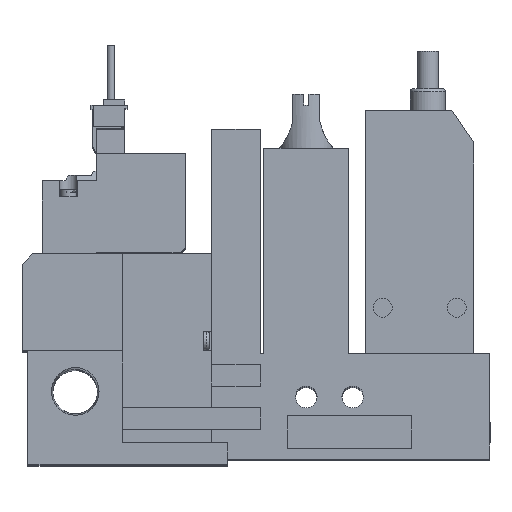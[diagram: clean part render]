
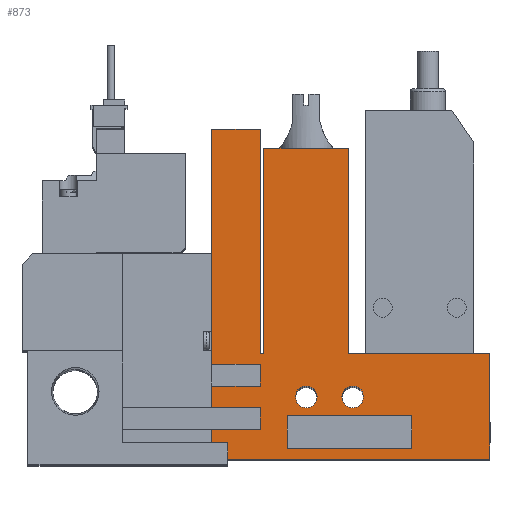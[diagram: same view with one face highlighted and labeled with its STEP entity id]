
A CAD part, top view. The second image highlights one B-rep face of the part: STEP entity #873.
In plain terms, the highlighted planar face has unit normal (0, 0, 1).
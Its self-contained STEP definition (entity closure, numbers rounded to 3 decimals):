
#873=ADVANCED_FACE('',(#1705,#1706,#1707,#1708),#1709,.T.);
#1705=FACE_OUTER_BOUND('',#2873,.T.);
#1706=FACE_BOUND('',#2874,.T.);
#1707=FACE_BOUND('',#2875,.T.);
#1708=FACE_BOUND('',#2876,.T.);
#1709=PLANE('',#2877);
#2873=EDGE_LOOP('',(#5829,#5830,#5831,#5832,#5833,#5834,#5835,#5836,#5837,#5838,#5839,#5840,#5841,#5842,#5843,#5844,#5845,#5846));
#2874=EDGE_LOOP('',(#5847,#5848,#5849,#5850));
#2875=EDGE_LOOP('',(#5851));
#2876=EDGE_LOOP('',(#5852));
#2877=AXIS2_PLACEMENT_3D('',#5853,#5854,#5855);
#5829=ORIENTED_EDGE('',*,*,#7982,.T.);
#5830=ORIENTED_EDGE('',*,*,#7987,.T.);
#5831=ORIENTED_EDGE('',*,*,#7956,.T.);
#5832=ORIENTED_EDGE('',*,*,#7988,.T.);
#5833=ORIENTED_EDGE('',*,*,#7989,.T.);
#5834=ORIENTED_EDGE('',*,*,#7990,.T.);
#5835=ORIENTED_EDGE('',*,*,#7991,.T.);
#5836=ORIENTED_EDGE('',*,*,#7958,.T.);
#5837=ORIENTED_EDGE('',*,*,#7992,.T.);
#5838=ORIENTED_EDGE('',*,*,#7983,.T.);
#5839=ORIENTED_EDGE('',*,*,#7879,.T.);
#5840=ORIENTED_EDGE('',*,*,#7993,.T.);
#5841=ORIENTED_EDGE('',*,*,#7928,.T.);
#5842=ORIENTED_EDGE('',*,*,#7944,.T.);
#5843=ORIENTED_EDGE('',*,*,#7942,.T.);
#5844=ORIENTED_EDGE('',*,*,#7855,.T.);
#5845=ORIENTED_EDGE('',*,*,#7976,.T.);
#5846=ORIENTED_EDGE('',*,*,#7919,.T.);
#5847=ORIENTED_EDGE('',*,*,#7966,.T.);
#5848=ORIENTED_EDGE('',*,*,#7849,.T.);
#5849=ORIENTED_EDGE('',*,*,#7852,.T.);
#5850=ORIENTED_EDGE('',*,*,#7994,.T.);
#5851=ORIENTED_EDGE('',*,*,#7867,.T.);
#5852=ORIENTED_EDGE('',*,*,#7995,.T.);
#5853=CARTESIAN_POINT('',(0.0,0.0,10.0));
#5854=DIRECTION('',(0.0,0.0,1.0));
#5855=DIRECTION('',(1.0,0.0,0.0));
#7849=EDGE_CURVE('',#9465,#9470,#9472,.T.);
#7852=EDGE_CURVE('',#9470,#9475,#9477,.T.);
#7855=EDGE_CURVE('',#9483,#9481,#9484,.T.);
#7867=EDGE_CURVE('',#9506,#9506,#9507,.T.);
#7879=EDGE_CURVE('',#9528,#9526,#9529,.T.);
#7919=EDGE_CURVE('',#9599,#9597,#9600,.T.);
#7928=EDGE_CURVE('',#9616,#9614,#9617,.T.);
#7942=EDGE_CURVE('',#9637,#9483,#9638,.T.);
#7944=EDGE_CURVE('',#9614,#9637,#9640,.T.);
#7956=EDGE_CURVE('',#9654,#9659,#9661,.T.);
#7958=EDGE_CURVE('',#9664,#9662,#9665,.T.);
#7966=EDGE_CURVE('',#9672,#9465,#9676,.T.);
#7976=EDGE_CURVE('',#9481,#9599,#9692,.T.);
#7982=EDGE_CURVE('',#9597,#9699,#9701,.T.);
#7983=EDGE_CURVE('',#9702,#9528,#9703,.T.);
#7987=EDGE_CURVE('',#9699,#9654,#9708,.T.);
#7988=EDGE_CURVE('',#9659,#9709,#9710,.T.);
#7989=EDGE_CURVE('',#9709,#9711,#9712,.T.);
#7990=EDGE_CURVE('',#9711,#9713,#9714,.T.);
#7991=EDGE_CURVE('',#9713,#9664,#9715,.T.);
#7992=EDGE_CURVE('',#9662,#9702,#9716,.T.);
#7993=EDGE_CURVE('',#9526,#9616,#9717,.T.);
#7994=EDGE_CURVE('',#9475,#9672,#9718,.T.);
#7995=EDGE_CURVE('',#9719,#9719,#9720,.T.);
#9465=VERTEX_POINT('',#12086);
#9470=VERTEX_POINT('',#12093);
#9472=LINE('',#12096,#12097);
#9475=VERTEX_POINT('',#12101);
#9477=LINE('',#12104,#12105);
#9481=VERTEX_POINT('',#12110);
#9483=VERTEX_POINT('',#12113);
#9484=LINE('',#12114,#12115);
#9506=VERTEX_POINT('',#12147);
#9507=CIRCLE('',#12148,2.0);
#9526=VERTEX_POINT('',#12175);
#9528=VERTEX_POINT('',#12178);
#9529=LINE('',#12179,#12180);
#9597=VERTEX_POINT('',#12283);
#9599=VERTEX_POINT('',#12286);
#9600=LINE('',#12287,#12288);
#9614=VERTEX_POINT('',#12306);
#9616=VERTEX_POINT('',#12309);
#9617=LINE('',#12310,#12311);
#9637=VERTEX_POINT('',#12343);
#9638=LINE('',#12344,#12345);
#9640=LINE('',#12348,#12349);
#9654=VERTEX_POINT('',#12371);
#9659=VERTEX_POINT('',#12378);
#9661=LINE('',#12381,#12382);
#9662=VERTEX_POINT('',#12383);
#9664=VERTEX_POINT('',#12386);
#9665=LINE('',#12387,#12388);
#9672=VERTEX_POINT('',#12399);
#9676=LINE('',#12405,#12406);
#9692=LINE('',#12430,#12431);
#9699=VERTEX_POINT('',#12442);
#9701=LINE('',#12445,#12446);
#9702=VERTEX_POINT('',#12447);
#9703=LINE('',#12448,#12449);
#9708=LINE('',#12457,#12458);
#9709=VERTEX_POINT('',#12459);
#9710=LINE('',#12460,#12461);
#9711=VERTEX_POINT('',#12462);
#9712=LINE('',#12463,#12464);
#9713=VERTEX_POINT('',#12465);
#9714=LINE('',#12466,#12467);
#9715=LINE('',#12468,#12469);
#9716=LINE('',#12470,#12471);
#9717=LINE('',#12472,#12473);
#9718=LINE('',#12474,#12475);
#9719=VERTEX_POINT('',#12476);
#9720=CIRCLE('',#12477,2.0);
#12086=CARTESIAN_POINT('',(49.1,8.0,10.0));
#12093=CARTESIAN_POINT('',(72.1,8.0,10.0));
#12096=CARTESIAN_POINT('',(0.0,8.0,10.0));
#12097=VECTOR('',#14373,1.0);
#12101=CARTESIAN_POINT('',(72.1,2.0,10.0));
#12104=CARTESIAN_POINT('',(72.1,0.0,10.0));
#12105=VECTOR('',#14376,1.0);
#12110=CARTESIAN_POINT('',(44.1,19.5,10.0));
#12113=CARTESIAN_POINT('',(44.75,19.5,10.0));
#12114=CARTESIAN_POINT('',(44.75,19.5,10.0));
#12115=VECTOR('',#14379,1.0);
#12147=CARTESIAN_POINT('',(54.6,11.5,10.0));
#12148=AXIS2_PLACEMENT_3D('',#14393,#14394,#14395);
#12175=CARTESIAN_POINT('',(86.6,19.5,10.0));
#12178=CARTESIAN_POINT('',(86.6,0.0,10.0));
#12179=CARTESIAN_POINT('',(86.6,0.0,10.0));
#12180=VECTOR('',#14411,1.0);
#12283=CARTESIAN_POINT('',(35.1,61.0,10.0));
#12286=CARTESIAN_POINT('',(44.1,61.0,10.0));
#12287=CARTESIAN_POINT('',(44.1,61.0,10.0));
#12288=VECTOR('',#14457,1.0);
#12306=CARTESIAN_POINT('',(60.45,57.5,10.0));
#12309=CARTESIAN_POINT('',(60.45,19.5,10.0));
#12310=CARTESIAN_POINT('',(60.45,19.5,10.0));
#12311=VECTOR('',#14472,1.0);
#12343=CARTESIAN_POINT('',(44.75,57.5,10.0));
#12344=CARTESIAN_POINT('',(44.75,57.5,10.0));
#12345=VECTOR('',#14488,1.0);
#12348=CARTESIAN_POINT('',(60.45,57.5,10.0));
#12349=VECTOR('',#14490,1.0);
#12371=CARTESIAN_POINT('',(44.1,17.5,10.0));
#12378=CARTESIAN_POINT('',(44.1,13.5,10.0));
#12381=CARTESIAN_POINT('',(44.1,0.0,10.0));
#12382=VECTOR('',#14502,1.0);
#12383=CARTESIAN_POINT('',(35.1,5.5,10.0));
#12386=CARTESIAN_POINT('',(44.1,5.5,10.0));
#12387=CARTESIAN_POINT('',(0.0,5.5,10.0));
#12388=VECTOR('',#14504,1.0);
#12399=CARTESIAN_POINT('',(49.1,2.0,10.0));
#12405=CARTESIAN_POINT('',(49.1,0.0,10.0));
#12406=VECTOR('',#14514,1.0);
#12430=CARTESIAN_POINT('',(44.1,19.5,10.0));
#12431=VECTOR('',#14526,1.0);
#12442=CARTESIAN_POINT('',(35.1,17.5,10.0));
#12445=CARTESIAN_POINT('',(35.1,61.0,10.0));
#12446=VECTOR('',#14532,1.0);
#12447=CARTESIAN_POINT('',(35.1,0.0,10.0));
#12448=CARTESIAN_POINT('',(18.6,0.0,10.0));
#12449=VECTOR('',#14533,1.0);
#12457=CARTESIAN_POINT('',(0.0,17.5,10.0));
#12458=VECTOR('',#14537,1.0);
#12459=CARTESIAN_POINT('',(35.1,13.5,10.0));
#12460=CARTESIAN_POINT('',(0.0,13.5,10.0));
#12461=VECTOR('',#14538,1.0);
#12462=CARTESIAN_POINT('',(35.1,9.5,10.0));
#12463=CARTESIAN_POINT('',(35.1,0.0,10.0));
#12464=VECTOR('',#14539,1.0);
#12465=CARTESIAN_POINT('',(44.1,9.5,10.0));
#12466=CARTESIAN_POINT('',(0.0,9.5,10.0));
#12467=VECTOR('',#14540,1.0);
#12468=CARTESIAN_POINT('',(44.1,0.0,10.0));
#12469=VECTOR('',#14541,1.0);
#12470=CARTESIAN_POINT('',(35.1,0.0,10.0));
#12471=VECTOR('',#14542,1.0);
#12472=CARTESIAN_POINT('',(86.6,19.5,10.0));
#12473=VECTOR('',#14543,1.0);
#12474=CARTESIAN_POINT('',(0.0,2.0,10.0));
#12475=VECTOR('',#14544,1.0);
#12476=CARTESIAN_POINT('',(63.2,11.5,10.0));
#12477=AXIS2_PLACEMENT_3D('',#14545,#14546,#14547);
#14373=DIRECTION('',(1.0,0.0,0.0));
#14376=DIRECTION('',(0.0,-1.0,0.0));
#14379=DIRECTION('',(-1.0,0.0,0.0));
#14393=CARTESIAN_POINT('',(52.6,11.5,10.0));
#14394=DIRECTION('',(0.0,0.0,-1.0));
#14395=DIRECTION('',(1.0,0.0,0.0));
#14411=DIRECTION('',(0.0,1.0,0.0));
#14457=DIRECTION('',(-1.0,0.0,0.0));
#14472=DIRECTION('',(0.0,1.0,0.0));
#14488=DIRECTION('',(0.0,-1.0,0.0));
#14490=DIRECTION('',(-1.0,0.0,0.0));
#14502=DIRECTION('',(0.0,-1.0,0.0));
#14504=DIRECTION('',(-1.0,0.0,0.0));
#14514=DIRECTION('',(0.0,1.0,0.0));
#14526=DIRECTION('',(0.0,1.0,0.0));
#14532=DIRECTION('',(0.0,-1.0,0.0));
#14533=DIRECTION('',(1.0,0.0,0.0));
#14537=DIRECTION('',(1.0,0.0,0.0));
#14538=DIRECTION('',(-1.0,0.0,0.0));
#14539=DIRECTION('',(0.0,-1.0,0.0));
#14540=DIRECTION('',(1.0,0.0,0.0));
#14541=DIRECTION('',(0.0,-1.0,0.0));
#14542=DIRECTION('',(0.0,-1.0,0.0));
#14543=DIRECTION('',(-1.0,0.0,0.0));
#14544=DIRECTION('',(-1.0,0.0,0.0));
#14545=CARTESIAN_POINT('',(61.2,11.5,10.0));
#14546=DIRECTION('',(0.0,0.0,-1.0));
#14547=DIRECTION('',(1.0,0.0,0.0));
